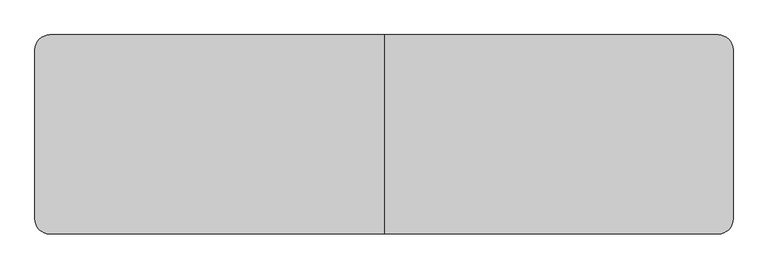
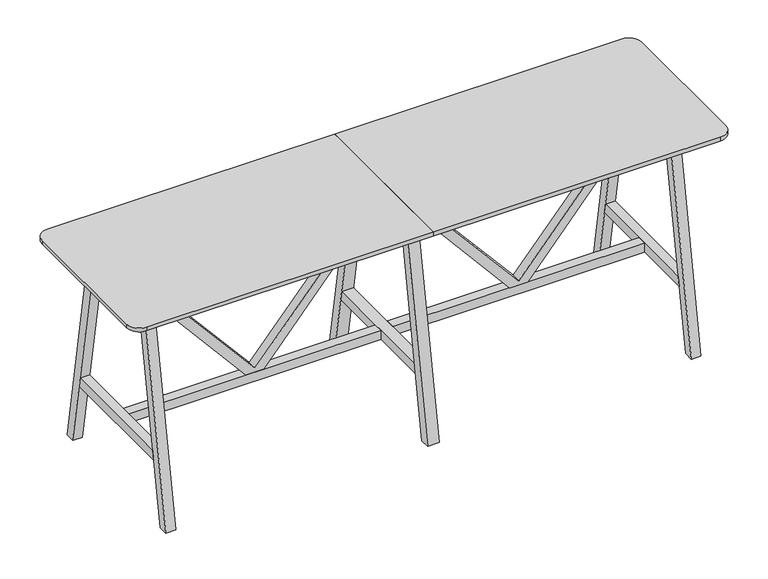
"""IFC4 building model written with IfcOpenShell, lengths in millimetres: furniture geometry, BDG_BossDesign_Tbls_AgentTables6Legs : AGE-HT-6L-2800-800-3D."""

from ifc_helpers import new_model, si_unit, point, frame, frame_2d, origin, place, context, project, spatial, polyline, circle_curve, trimmed, segment, composite_curve, outline, extrude, source, transform, mapped, element, save


def furniture_1ba23f32(model_context):
    return source(origin(), model_context, "Body", "SweptSolid", [
        extrude(outline(polyline([(345.0, 574.0823957), (345.0, 658.4176043), (992.0, 1205.0), (1032.0, 1205.0), (1032.0, 1185.0), (365.0, 616.25), (1032.0, 47.5), (1032.0, 27.5), (992.0, 27.5), (345.0, 574.0823957)])), frame((0.0, -22.5000305, 0.0), z_axis=(0.0, 1.0, 0.0), x_axis=(0.0, 0.0, 1.0)), (0.0, 0.0, 1.0), 45.000061),
        extrude(outline(polyline([(345.0, -574.0823957), (992.0, -27.5), (1032.0, -27.5), (1032.0, -47.5), (365.0, -616.25), (1032.0, -1185.0), (1032.0, -1205.0), (992.0, -1205.0), (345.0, -658.4176043), (345.0, -574.0823957)])), frame((0.0, -22.5000305, 0.0), z_axis=(0.0, 1.0, 0.0), x_axis=(0.0, 0.0, 1.0)), (0.0, 0.0, 1.0), 45.000061),
        extrude(outline(polyline([(400.0, 0.0), (354.9999949, 0.0), (185.5, 970.0), (230.5000051, 970.0), (400.0, 0.0)])), frame((-27.5, 0.0, 0.0), z_axis=(1.0, 0.0, 0.0), x_axis=(0.0, 1.0, 0.0)), (0.0, 0.0, 1.0), 55.0),
        extrude(outline(polyline([(-400.0, 0.0), (-230.5000051, 970.0), (-185.5, 970.0), (-354.9999949, 0.0), (-400.0, 0.0)])), frame((-27.5, 0.0, 0.0), z_axis=(1.0, 0.0, 0.0), x_axis=(0.0, 1.0, 0.0)), (0.0, 0.0, 1.0), 55.0),
        extrude(outline(polyline([(302.5773161, 300.0), (-302.5773161, 300.0), (-294.7139143, 345.0), (294.7139143, 345.0), (302.5773161, 300.0)])), frame((-27.5, 0.0, 0.0), z_axis=(1.0, 0.0, 0.0), x_axis=(0.0, 1.0, 0.0)), (0.0, 0.0, 1.0), 55.0),
        extrude(outline(composite_curve([segment(polyline([(0.0, 400.0), (0.0, -400.0), (-1340.0, -400.0)]), True, "CONTINUOUS"), segment(trimmed(circle_curve(frame_2d((-1340.0, -340.0)), 60.0), [point((-1340.0, -400.0))], [point((-1400.0, -340.0))], False, "CARTESIAN"), True, "CONTINUOUS"), segment(polyline([(-1400.0, -340.0), (-1400.0, 340.0)]), True, "CONTINUOUS"), segment(trimmed(circle_curve(frame_2d((-1340.0, 340.0)), 60.0), [point((-1400.0, 340.0))], [point((-1340.0, 400.0))], False, "CARTESIAN"), True, "CONTINUOUS"), segment(polyline([(-1340.0, 400.0), (0.0, 400.0)]), True, "CONTINUOUS")], self_intersect=False)), frame((0.0, 0.0, 1032.0), z_axis=(0.0, 0.0, 1.0), x_axis=(1.0, 0.0, 0.0)), (0.0, 0.0, 1.0), 18.0),
        extrude(outline(polyline([(-294.7139143, 345.0), (294.7139143, 345.0), (302.5773161, 300.0), (-302.5773161, 300.0), (-294.7139143, 345.0)])), frame((1205.0, 0.0, 0.0), z_axis=(1.0, 0.0, 0.0), x_axis=(0.0, 1.0, 0.0)), (0.0, 0.0, 1.0), 45.0),
        extrude(outline(polyline([(400.0, 0.0), (354.9999949, 0.0), (185.5, 970.0), (230.5000051, 970.0), (400.0, 0.0)])), frame((-1250.0, 0.0, 0.0), z_axis=(1.0, 0.0, 0.0), x_axis=(0.0, 1.0, 0.0)), (0.0, 0.0, 1.0), 45.0),
        extrude(outline(polyline([(-400.0, 0.0), (-230.5000051, 970.0), (-185.5, 970.0), (-354.9999949, 0.0), (-400.0, 0.0)])), frame((-1250.0, 0.0, 0.0), z_axis=(1.0, 0.0, 0.0), x_axis=(0.0, 1.0, 0.0)), (0.0, 0.0, 1.0), 45.0),
        extrude(outline(polyline([(-294.7139143, 345.0), (294.7139143, 345.0), (302.5773161, 300.0), (-302.5773161, 300.0), (-294.7139143, 345.0)])), frame((-1250.0, 0.0, 0.0), z_axis=(1.0, 0.0, 0.0), x_axis=(0.0, 1.0, 0.0)), (0.0, 0.0, 1.0), 45.0),
        extrude(outline(polyline([(-226.6006165, 944.973938), (-204.2770691, 1032.0), (-179.5, 1032.0), (-201.8235474, 944.973938), (-226.6006165, 944.973938)])), frame((-1205.0, 0.0, 0.0), z_axis=(1.0, 0.0, 0.0), x_axis=(0.0, 1.0, 0.0)), (0.0, 0.0, 1.0), 2410.0),
        extrude(outline(polyline([(226.6006165, 944.973938), (201.8235474, 944.973938), (179.5, 1032.0), (204.2770691, 1032.0), (226.6006165, 944.973938)])), frame((-1205.0, 0.0, 0.0), z_axis=(1.0, 0.0, 0.0), x_axis=(0.0, 1.0, 0.0)), (0.0, 0.0, 1.0), 2410.0),
        extrude(outline(polyline([(399.7999878, 0.0), (354.7999827, 0.0), (185.5, 970.0), (230.5000051, 970.0), (399.7999878, 0.0)])), frame((1205.0, 0.0, 0.0), z_axis=(1.0, 0.0, 0.0), x_axis=(0.0, 1.0, 0.0)), (0.0, 0.0, 1.0), 45.0),
        extrude(outline(polyline([(-399.7999878, 0.0), (-230.5000051, 970.0), (-185.5, 970.0), (-354.7999827, 0.0), (-399.7999878, 0.0)])), frame((1205.0, 0.0, 0.0), z_axis=(1.0, 0.0, 0.0), x_axis=(0.0, 1.0, 0.0)), (0.0, 0.0, 1.0), 45.0),
        extrude(outline(polyline([(-27.5, 22.5000305), (-27.5, -22.5000305), (-1205.0, -22.5000305), (-1205.0, 22.5000305), (-27.5, 22.5000305)])), frame((0.0, 0.0, 300.0), z_axis=(0.0, 0.0, 1.0), x_axis=(1.0, 0.0, 0.0)), (0.0, 0.0, 1.0), 45.0),
        extrude(outline(polyline([(27.5, -22.5000305), (27.5, 22.5000305), (1205.0, 22.5000305), (1205.0, -22.5000305), (27.5, -22.5000305)])), frame((0.0, 0.0, 300.0), z_axis=(0.0, 0.0, 1.0), x_axis=(1.0, 0.0, 0.0)), (0.0, 0.0, 1.0), 45.0),
        extrude(outline(composite_curve([segment(trimmed(circle_curve(frame_2d((1340.0, 340.0)), 60.0), [point((1340.0, 400.0))], [point((1400.0, 340.0))], False, "CARTESIAN"), True, "CONTINUOUS"), segment(polyline([(1400.0, 340.0), (1400.0, -340.0)]), True, "CONTINUOUS"), segment(trimmed(circle_curve(frame_2d((1340.0, -340.0)), 60.0), [point((1400.0, -340.0))], [point((1340.0, -400.0))], False, "CARTESIAN"), True, "CONTINUOUS"), segment(polyline([(1340.0, -400.0), (0.0, -400.0), (0.0, 400.0), (1340.0, 400.0)]), True, "CONTINUOUS")], self_intersect=False)), frame((0.0, 0.0, 1032.0), z_axis=(0.0, 0.0, 1.0), x_axis=(1.0, 0.0, 0.0)), (0.0, 0.0, 1.0), 18.0),
    ])


if __name__ == "__main__":
    model = new_model("IFC4")
    model_context = context("Model", 3, world=origin())
    ifc_project = project(units=[si_unit("LENGTHUNIT", "METRE", prefix="MILLI")], contexts=[model_context])
    site = spatial("IfcSite", under=ifc_project)
    building = spatial("IfcBuilding", under=site)
    placement = place(None, origin())
    furniture_shape = furniture_1ba23f32(model_context)
    element("IfcFurniture", 1, ObjectType="BDG_BossDesign_Tbls_AgentTables6Legs : AGE-HT-6L-2800-800-3D", at=placement, inside=building, context=model_context, shape_type="MappedRepresentation", body=[
        mapped(furniture_shape, transform((0.0, 0.0, 0.0), x_axis=(1.0, 0.0, 0.0), y_axis=(0.0, 1.0, 0.0), z_axis=(0.0, 0.0, 1.0))),
    ])
    save(model, "model.ifc")
